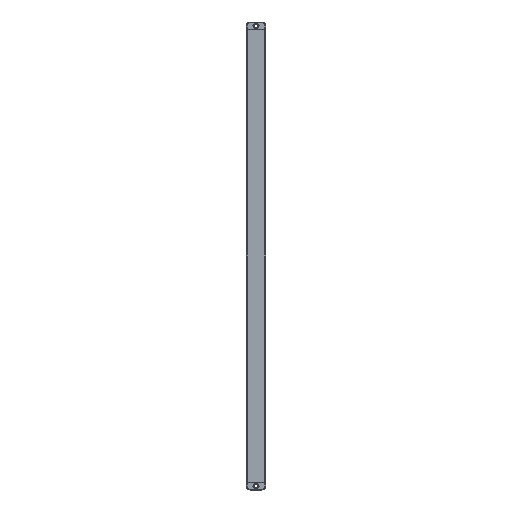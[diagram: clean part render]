
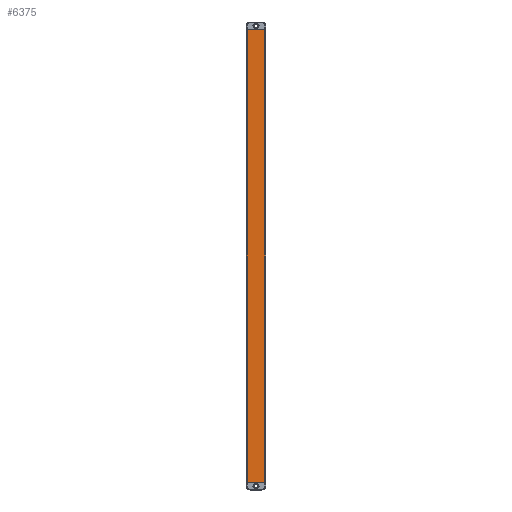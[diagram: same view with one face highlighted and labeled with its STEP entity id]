
A CAD part, front view. The second image highlights one B-rep face of the part: STEP entity #6375.
In plain terms, the highlighted planar face has unit normal (0, -1, 0).
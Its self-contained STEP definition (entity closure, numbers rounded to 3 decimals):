
#9 = ORIENTED_EDGE ( 'NONE', *, *, #262, .T. ) ;
#81 = VECTOR ( 'NONE', #8450, 1000. ) ;
#262 = EDGE_CURVE ( 'NONE', #1922, #5794, #9645, .T. ) ;
#866 = ORIENTED_EDGE ( 'NONE', *, *, #9559, .T. ) ;
#1173 = AXIS2_PLACEMENT_3D ( 'NONE', #2324, #5859, #9390 ) ;
#1374 = LINE ( 'NONE', #4911, #81 ) ;
#1377 = DIRECTION ( 'NONE',  ( 0., 0., -1. ) ) ;
#1657 = EDGE_CURVE ( 'NONE', #4226, #9669, #5780, .T. ) ;
#1709 = CARTESIAN_POINT ( 'NONE',  ( -11.5, -6., 590. ) ) ;
#1922 = VERTEX_POINT ( 'NONE', #4621 ) ;
#2324 = CARTESIAN_POINT ( 'NONE',  ( -0.005, -6., 590. ) ) ;
#2689 = CARTESIAN_POINT ( 'NONE',  ( -11.5, -6., 0. ) ) ;
#3022 = DIRECTION ( 'NONE',  ( 1., 0., 0. ) ) ;
#4226 = VERTEX_POINT ( 'NONE', #10063 ) ;
#4621 = CARTESIAN_POINT ( 'NONE',  ( -11.5, -6., 590. ) ) ;
#4911 = CARTESIAN_POINT ( 'NONE',  ( -0.005, -6., 0. ) ) ;
#5246 = DIRECTION ( 'NONE',  ( 0., 0., -1. ) ) ;
#5780 = LINE ( 'NONE', #9312, #9261 ) ;
#5794 = VERTEX_POINT ( 'NONE', #2689 ) ;
#5859 = DIRECTION ( 'NONE',  ( 0., 1., 0. ) ) ;
#6358 = ORIENTED_EDGE ( 'NONE', *, *, #9146, .F. ) ;
#6375 = ADVANCED_FACE ( 'NONE', ( #6725 ), #10262, .F. ) ;
#6404 = VECTOR ( 'NONE', #5246, 1000. ) ;
#6725 = FACE_OUTER_BOUND ( 'NONE', #7686, .T. ) ;
#7424 = LINE ( 'NONE', #10965, #9515 ) ;
#7686 = EDGE_LOOP ( 'NONE', ( #866, #11267, #6358, #9 ) ) ;
#8450 = DIRECTION ( 'NONE',  ( 1., 0., 0. ) ) ;
#9146 = EDGE_CURVE ( 'NONE', #1922, #4226, #7424, .T. ) ;
#9261 = VECTOR ( 'NONE', #1377, 1000. ) ;
#9312 = CARTESIAN_POINT ( 'NONE',  ( 11.5, -6., 590. ) ) ;
#9390 = DIRECTION ( 'NONE',  ( 0., 0., 1. ) ) ;
#9515 = VECTOR ( 'NONE', #3022, 1000. ) ;
#9559 = EDGE_CURVE ( 'NONE', #5794, #9669, #1374, .T. ) ;
#9645 = LINE ( 'NONE', #1709, #6404 ) ;
#9669 = VERTEX_POINT ( 'NONE', #10356 ) ;
#10063 = CARTESIAN_POINT ( 'NONE',  ( 11.5, -6., 590. ) ) ;
#10262 = PLANE ( 'NONE',  #1173 ) ;
#10356 = CARTESIAN_POINT ( 'NONE',  ( 11.5, -6., 0. ) ) ;
#10965 = CARTESIAN_POINT ( 'NONE',  ( -11.5, -6., 590. ) ) ;
#11267 = ORIENTED_EDGE ( 'NONE', *, *, #1657, .F. ) ;
